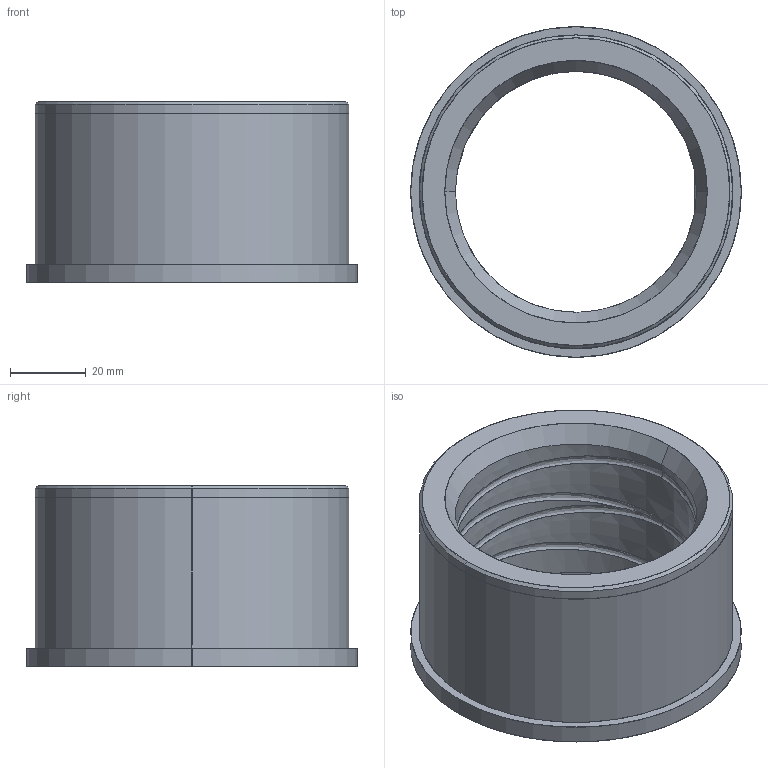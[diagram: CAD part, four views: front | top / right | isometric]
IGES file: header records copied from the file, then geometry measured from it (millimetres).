
Start section: SolidWorks IGES file using analytic representation for surfaces
Global section: file name: D:\Current\W2\SBF 20-17.igs; native system: SolidWorks 2017; preprocessor: SolidWorks 2017; author: Ravi Kalvai; date: 230530.120004; units: inch
Bounding box: 87.05 x 87.05 x 47.62 mm (x, y, z)
Surface area: 27043.8 mm2 (no closed solid volume)
Topology: 0 solids, 0 shells, 32 faces, 1174 edges, 1174 vertices
Faces by surface type: revolution 20, bspline 12
